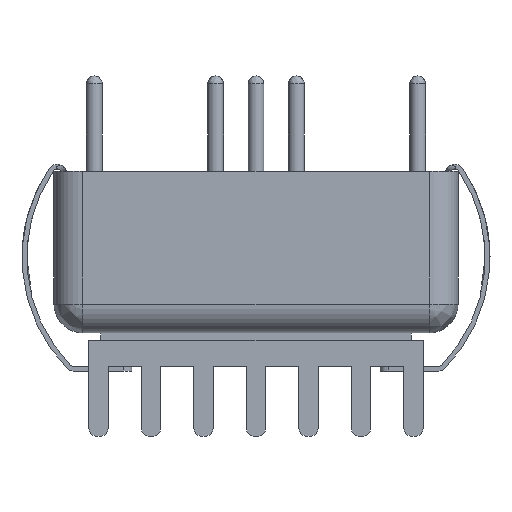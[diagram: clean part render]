
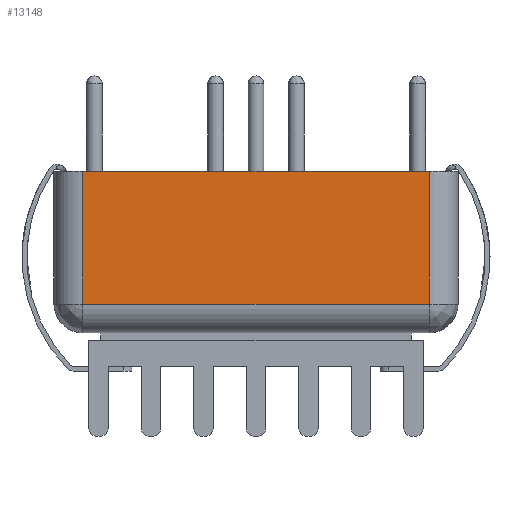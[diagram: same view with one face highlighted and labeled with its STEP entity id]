
A CAD part, front view. The second image highlights one B-rep face of the part: STEP entity #13148.
In plain terms, the highlighted planar face has unit normal (0, -1, 0).
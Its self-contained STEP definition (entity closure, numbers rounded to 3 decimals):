
#172 = FACE_OUTER_BOUND ( 'NONE', #1116, .T. ) ;
#251 = EDGE_CURVE ( 'NONE', #7426, #4585, #8106, .T. ) ;
#484 = LINE ( 'NONE', #9513, #746 ) ;
#703 = EDGE_CURVE ( 'NONE', #4585, #11468, #6114, .T. ) ;
#746 = VECTOR ( 'NONE', #9525, 1000. ) ;
#1022 = AXIS2_PLACEMENT_3D ( 'NONE', #8055, #4072, #11073 ) ;
#1116 = EDGE_LOOP ( 'NONE', ( #9061, #6650, #9303, #8174 ) ) ;
#1377 = VERTEX_POINT ( 'NONE', #11623 ) ;
#1877 = EDGE_CURVE ( 'NONE', #1377, #7426, #484, .T. ) ;
#2056 = DIRECTION ( 'NONE',  ( 0., 0., 1. ) ) ;
#2114 = CARTESIAN_POINT ( 'NONE',  ( 10.9, -12.7, 0. ) ) ;
#2367 = LINE ( 'NONE', #3694, #2409 ) ;
#2409 = VECTOR ( 'NONE', #3649, 1000. ) ;
#3649 = DIRECTION ( 'NONE',  ( 1., 0., 0. ) ) ;
#3694 = CARTESIAN_POINT ( 'NONE',  ( 0., -12.7, 10.16 ) ) ;
#4072 = DIRECTION ( 'NONE',  ( 0., -1., 0. ) ) ;
#4450 = VECTOR ( 'NONE', #2056, 1000. ) ;
#4458 = DIRECTION ( 'NONE',  ( 1., 0., 0. ) ) ;
#4464 = CARTESIAN_POINT ( 'NONE',  ( -12.7, -12.7, 1.8 ) ) ;
#4585 = VERTEX_POINT ( 'NONE', #11448 ) ;
#4825 = VECTOR ( 'NONE', #4458, 1000. ) ;
#6114 = LINE ( 'NONE', #2114, #4450 ) ;
#6333 = EDGE_CURVE ( 'NONE', #1377, #11468, #2367, .T. ) ;
#6650 = ORIENTED_EDGE ( 'NONE', *, *, #6333, .F. ) ;
#7426 = VERTEX_POINT ( 'NONE', #12197 ) ;
#8055 = CARTESIAN_POINT ( 'NONE',  ( -12.7, -12.7, 0. ) ) ;
#8106 = LINE ( 'NONE', #4464, #4825 ) ;
#8174 = ORIENTED_EDGE ( 'NONE', *, *, #251, .T. ) ;
#9061 = ORIENTED_EDGE ( 'NONE', *, *, #703, .T. ) ;
#9303 = ORIENTED_EDGE ( 'NONE', *, *, #1877, .T. ) ;
#9513 = CARTESIAN_POINT ( 'NONE',  ( -10.9, -12.7, 0. ) ) ;
#9525 = DIRECTION ( 'NONE',  ( 0., 0., -1. ) ) ;
#11073 = DIRECTION ( 'NONE',  ( 0., 0., -1. ) ) ;
#11448 = CARTESIAN_POINT ( 'NONE',  ( 10.9, -12.7, 1.8 ) ) ;
#11468 = VERTEX_POINT ( 'NONE', #12412 ) ;
#11623 = CARTESIAN_POINT ( 'NONE',  ( -10.9, -12.7, 10.16 ) ) ;
#12017 = PLANE ( 'NONE',  #1022 ) ;
#12197 = CARTESIAN_POINT ( 'NONE',  ( -10.9, -12.7, 1.8 ) ) ;
#12412 = CARTESIAN_POINT ( 'NONE',  ( 10.9, -12.7, 10.16 ) ) ;
#13148 = ADVANCED_FACE ( 'NONE', ( #172 ), #12017, .T. ) ;
